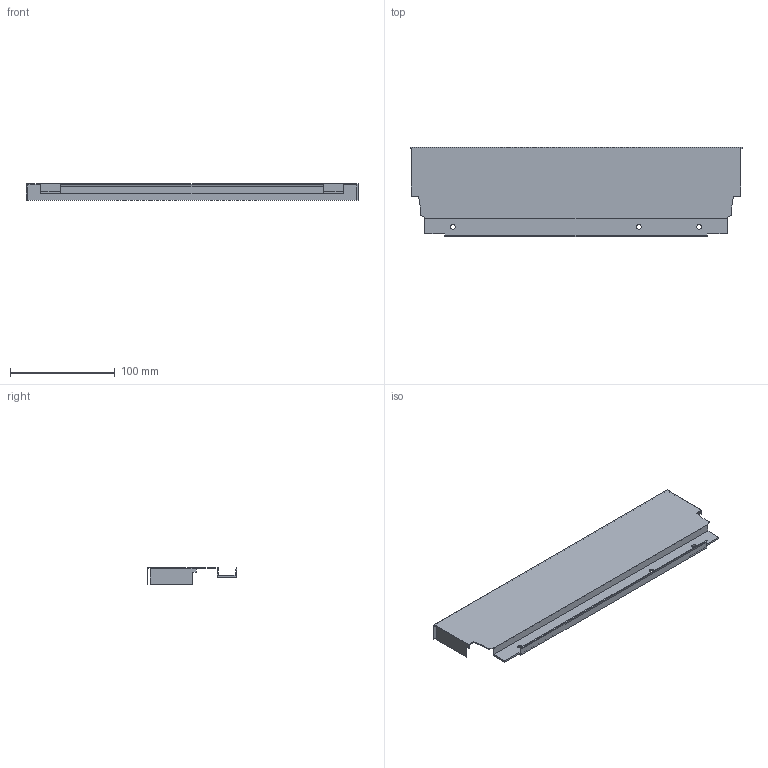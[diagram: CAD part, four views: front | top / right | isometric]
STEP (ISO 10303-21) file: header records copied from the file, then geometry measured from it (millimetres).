
FILE_DESCRIPTION (( 'STEP AP214' ), '1' );
FILE_NAME ('_DWD_XP Stahlrückwand_H86_KAB400_S17.step', '2010-07-08T12:10:05', ( 'grass' ), ( '' ), 'SwSTEP 2.0', 'SolidWorks 2010', '' );
FILE_SCHEMA (( 'AUTOMOTIVE_DESIGN' ));
Length unit declared in the file: millimetre
Products named in the file (1): _DWD_XP Stahlrückwand_H86_KAB400_S17
Bounding box: 317 x 85.79 x 16 mm (x, y, z)
Volume: 33338 mm3; surface area: 73239.5 mm2
Topology: 1 solids, 1 shells, 50 faces, 144 edges, 96 vertices
Faces by surface type: plane 44, cylinder 6
Entity records: 1666 total; most frequent: CARTESIAN_POINT 291, ORIENTED_EDGE 288, DIRECTION 258, EDGE_CURVE 144, LINE 132, VECTOR 132, VERTEX_POINT 96, AXIS2_PLACEMENT_3D 63
